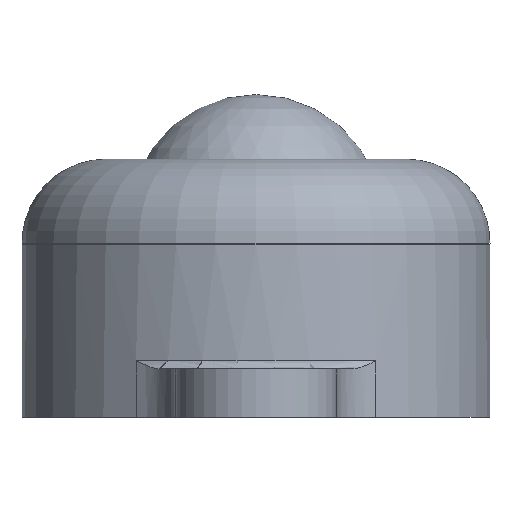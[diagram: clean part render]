
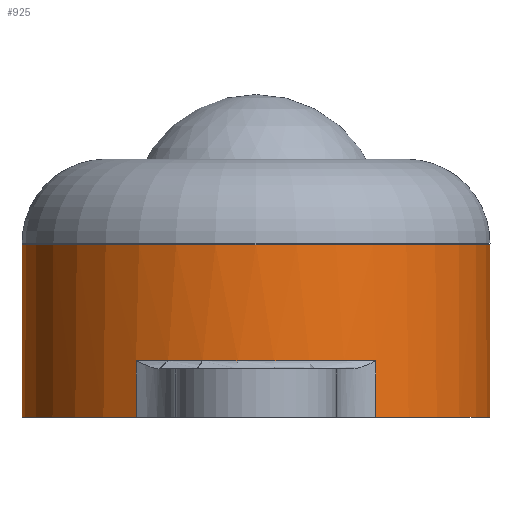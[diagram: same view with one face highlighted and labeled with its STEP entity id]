
A CAD part, left-side view. The second image highlights one B-rep face of the part: STEP entity #925.
In plain terms, the highlighted cylindrical face has radius 14.5 mm (diameter 29 mm), a full revolution.
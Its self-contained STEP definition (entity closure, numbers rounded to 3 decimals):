
#39=LINE('',#1760,#87);
#40=LINE('',#1764,#88);
#41=LINE('',#1768,#89);
#42=LINE('',#1771,#90);
#87=VECTOR('',#1195,3.5);
#88=VECTOR('',#1198,3.5);
#89=VECTOR('',#1201,3.5);
#90=VECTOR('',#1204,3.5);
#147=FACE_BOUND('',#293,.T.);
#175=CYLINDRICAL_SURFACE('',#1007,14.5);
#225=FACE_OUTER_BOUND('',#292,.T.);
#292=EDGE_LOOP('',(#681,#682,#683,#684,#685,#686,#687,#688));
#293=EDGE_LOOP('',(#689));
#351=CIRCLE('',#977,14.5);
#368=CIRCLE('',#1008,14.5);
#369=CIRCLE('',#1009,14.5);
#370=CIRCLE('',#1010,14.5);
#371=CIRCLE('',#1011,14.5);
#413=VERTEX_POINT('',#1652);
#416=VERTEX_POINT('',#1664);
#448=VERTEX_POINT('',#1759);
#449=VERTEX_POINT('',#1761);
#450=VERTEX_POINT('',#1763);
#451=VERTEX_POINT('',#1765);
#452=VERTEX_POINT('',#1767);
#453=VERTEX_POINT('',#1769);
#454=VERTEX_POINT('',#1772);
#499=EDGE_CURVE('',#416,#413,#351,.T.);
#540=EDGE_CURVE('',#416,#448,#39,.T.);
#541=EDGE_CURVE('',#449,#448,#368,.T.);
#542=EDGE_CURVE('',#449,#450,#40,.T.);
#543=EDGE_CURVE('',#451,#450,#369,.T.);
#544=EDGE_CURVE('',#452,#451,#41,.T.);
#545=EDGE_CURVE('',#453,#452,#370,.T.);
#546=EDGE_CURVE('',#413,#453,#42,.T.);
#547=EDGE_CURVE('',#454,#454,#371,.T.);
#681=ORIENTED_EDGE('',*,*,#540,.T.);
#682=ORIENTED_EDGE('',*,*,#541,.F.);
#683=ORIENTED_EDGE('',*,*,#542,.T.);
#684=ORIENTED_EDGE('',*,*,#543,.F.);
#685=ORIENTED_EDGE('',*,*,#544,.F.);
#686=ORIENTED_EDGE('',*,*,#545,.F.);
#687=ORIENTED_EDGE('',*,*,#546,.F.);
#688=ORIENTED_EDGE('',*,*,#499,.F.);
#689=ORIENTED_EDGE('',*,*,#547,.T.);
#925=ADVANCED_FACE('',(#225,#147),#175,.T.);
#977=AXIS2_PLACEMENT_3D('',#1673,#1109,#1110);
#1007=AXIS2_PLACEMENT_3D('',#1758,#1193,#1194);
#1008=AXIS2_PLACEMENT_3D('',#1762,#1196,#1197);
#1009=AXIS2_PLACEMENT_3D('',#1766,#1199,#1200);
#1010=AXIS2_PLACEMENT_3D('',#1770,#1202,#1203);
#1011=AXIS2_PLACEMENT_3D('',#1773,#1205,#1206);
#1109=DIRECTION('center_axis',(0.,0.,-1.));
#1110=DIRECTION('ref_axis',(-1.,0.,0.));
#1193=DIRECTION('center_axis',(0.,0.,-1.));
#1194=DIRECTION('ref_axis',(0.,1.,0.));
#1195=DIRECTION('',(0.,0.,-1.));
#1196=DIRECTION('center_axis',(0.,0.,-1.));
#1197=DIRECTION('ref_axis',(0.,1.,0.));
#1198=DIRECTION('',(0.,0.,1.));
#1199=DIRECTION('center_axis',(0.,0.,-1.));
#1200=DIRECTION('ref_axis',(1.,0.,0.));
#1201=DIRECTION('',(0.,0.,1.));
#1202=DIRECTION('center_axis',(0.,0.,-1.));
#1203=DIRECTION('ref_axis',(0.,1.,0.));
#1204=DIRECTION('',(0.,0.,-1.));
#1205=DIRECTION('center_axis',(0.,0.,-1.));
#1206=DIRECTION('ref_axis',(0.,1.,0.));
#1652=CARTESIAN_POINT('',(-12.448,7.436,3.5));
#1664=CARTESIAN_POINT('',(-12.448,-7.436,3.5));
#1673=CARTESIAN_POINT('Origin',(0.,0.,3.5));
#1758=CARTESIAN_POINT('Origin',(0.,0.,5.35));
#1759=CARTESIAN_POINT('',(-12.448,-7.436,0.));
#1760=CARTESIAN_POINT('',(-12.448,-7.436,0.));
#1761=CARTESIAN_POINT('',(12.448,-7.436,0.));
#1762=CARTESIAN_POINT('Origin',(0.,0.,0.));
#1763=CARTESIAN_POINT('',(12.448,-7.436,3.5));
#1764=CARTESIAN_POINT('',(12.448,-7.436,0.));
#1765=CARTESIAN_POINT('',(12.448,7.436,3.5));
#1766=CARTESIAN_POINT('Origin',(0.,0.,3.5));
#1767=CARTESIAN_POINT('',(12.448,7.436,0.));
#1768=CARTESIAN_POINT('',(12.448,7.436,0.));
#1769=CARTESIAN_POINT('',(-12.448,7.436,0.));
#1770=CARTESIAN_POINT('Origin',(0.,0.,0.));
#1771=CARTESIAN_POINT('',(-12.448,7.436,0.));
#1772=CARTESIAN_POINT('',(0.,14.5,10.7));
#1773=CARTESIAN_POINT('Origin',(0.,0.,10.7));
